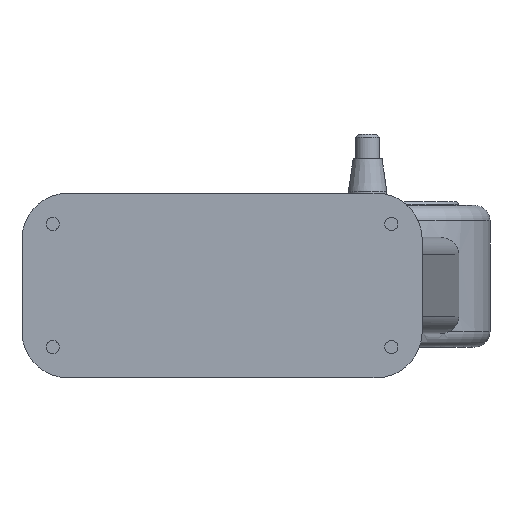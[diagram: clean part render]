
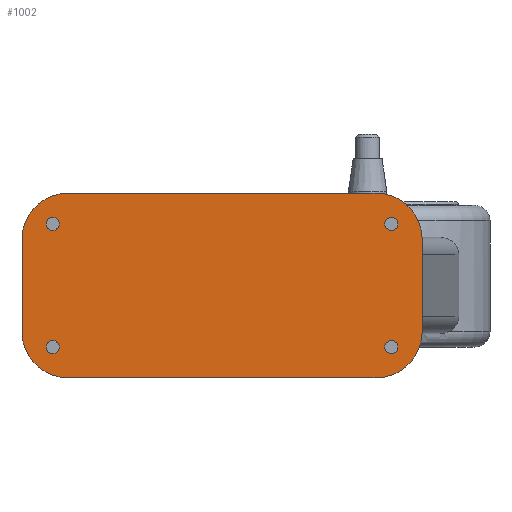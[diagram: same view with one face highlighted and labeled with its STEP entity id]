
A CAD part, front view. The second image highlights one B-rep face of the part: STEP entity #1002.
In plain terms, the highlighted planar face has unit normal (0, -1, 0).
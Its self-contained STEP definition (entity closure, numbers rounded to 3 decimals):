
#3 = DIRECTION ( 'NONE',  ( 1., 0., 0. ) ) ;
#7 = DIRECTION ( 'NONE',  ( 0., -1., 0. ) ) ;
#11 = CARTESIAN_POINT ( 'NONE',  ( 112.419, 0., 40. ) ) ;
#40 = VERTEX_POINT ( 'NONE', #63 ) ;
#63 = CARTESIAN_POINT ( 'NONE',  ( -97.581, 0., -60. ) ) ;
#94 = VERTEX_POINT ( 'NONE', #1247 ) ;
#111 = VERTEX_POINT ( 'NONE', #350 ) ;
#147 = EDGE_LOOP ( 'NONE', ( #1716, #288 ) ) ;
#160 = FACE_BOUND ( 'NONE', #347, .T. ) ;
#186 = EDGE_LOOP ( 'NONE', ( #2266, #969, #1917, #1515, #307, #515, #997, #1110 ) ) ;
#230 = DIRECTION ( 'NONE',  ( 1., 0., 0. ) ) ;
#233 = VERTEX_POINT ( 'NONE', #891 ) ;
#239 = CIRCLE ( 'NONE', #1752, 30. ) ;
#288 = ORIENTED_EDGE ( 'NONE', *, *, #1873, .F. ) ;
#297 = CARTESIAN_POINT ( 'NONE',  ( -127.581, 0., -30. ) ) ;
#307 = ORIENTED_EDGE ( 'NONE', *, *, #462, .F. ) ;
#312 = CARTESIAN_POINT ( 'NONE',  ( -127.581, 0., -60. ) ) ;
#324 = VERTEX_POINT ( 'NONE', #332 ) ;
#329 = CARTESIAN_POINT ( 'NONE',  ( -127.581, 0., 30. ) ) ;
#332 = CARTESIAN_POINT ( 'NONE',  ( 102.419, 0., -60. ) ) ;
#347 = EDGE_LOOP ( 'NONE', ( #1346, #1402 ) ) ;
#350 = CARTESIAN_POINT ( 'NONE',  ( -103.331, 0., -40. ) ) ;
#351 = ORIENTED_EDGE ( 'NONE', *, *, #1094, .F. ) ;
#372 = DIRECTION ( 'NONE',  ( 1., 0., 0. ) ) ;
#379 = DIRECTION ( 'NONE',  ( 0., -1., 0. ) ) ;
#384 = CARTESIAN_POINT ( 'NONE',  ( 112.419, 0., -40. ) ) ;
#391 = DIRECTION ( 'NONE',  ( 1., 0., 0. ) ) ;
#394 = DIRECTION ( 'NONE',  ( 0., -1., 0. ) ) ;
#398 = CARTESIAN_POINT ( 'NONE',  ( -107.581, 0., 40. ) ) ;
#402 = AXIS2_PLACEMENT_3D ( 'NONE', #695, #560, #468 ) ;
#404 = VERTEX_POINT ( 'NONE', #647 ) ;
#414 = VERTEX_POINT ( 'NONE', #1004 ) ;
#418 = CARTESIAN_POINT ( 'NONE',  ( 116.669, 0., -40. ) ) ;
#440 = AXIS2_PLACEMENT_3D ( 'NONE', #916, #905, #898 ) ;
#462 = EDGE_CURVE ( 'NONE', #94, #404, #1072, .T. ) ;
#468 = DIRECTION ( 'NONE',  ( 1., 0., 0. ) ) ;
#494 = VERTEX_POINT ( 'NONE', #1322 ) ;
#515 = ORIENTED_EDGE ( 'NONE', *, *, #1772, .T. ) ;
#516 = AXIS2_PLACEMENT_3D ( 'NONE', #11, #7, #3 ) ;
#555 = CIRCLE ( 'NONE', #1251, 4.25 ) ;
#560 = DIRECTION ( 'NONE',  ( 0., -1., 0. ) ) ;
#570 = LINE ( 'NONE', #1719, #2256 ) ;
#589 = DIRECTION ( 'NONE',  ( -1., 0., 0. ) ) ;
#591 = AXIS2_PLACEMENT_3D ( 'NONE', #627, #658, #589 ) ;
#627 = CARTESIAN_POINT ( 'NONE',  ( 102.419, 0., 30. ) ) ;
#647 = CARTESIAN_POINT ( 'NONE',  ( 102.419, 0., 60. ) ) ;
#650 = VERTEX_POINT ( 'NONE', #1585 ) ;
#658 = DIRECTION ( 'NONE',  ( 0., -1., 0. ) ) ;
#670 = FACE_BOUND ( 'NONE', #1208, .T. ) ;
#695 = CARTESIAN_POINT ( 'NONE',  ( -107.581, 0., -40. ) ) ;
#725 = ORIENTED_EDGE ( 'NONE', *, *, #818, .F. ) ;
#740 = CARTESIAN_POINT ( 'NONE',  ( 132.419, 0., 30. ) ) ;
#770 = VERTEX_POINT ( 'NONE', #950 ) ;
#802 = VERTEX_POINT ( 'NONE', #740 ) ;
#818 = EDGE_CURVE ( 'NONE', #494, #111, #2012, .T. ) ;
#828 = AXIS2_PLACEMENT_3D ( 'NONE', #398, #394, #391 ) ;
#855 = AXIS2_PLACEMENT_3D ( 'NONE', #1986, #1970, #1966 ) ;
#861 = CARTESIAN_POINT ( 'NONE',  ( -127.581, 0., 60. ) ) ;
#891 = CARTESIAN_POINT ( 'NONE',  ( 108.169, 0., -40. ) ) ;
#898 = DIRECTION ( 'NONE',  ( 1., 0., 0. ) ) ;
#901 = DIRECTION ( 'NONE',  ( 1., 0., 0. ) ) ;
#905 = DIRECTION ( 'NONE',  ( 0., -1., 0. ) ) ;
#916 = CARTESIAN_POINT ( 'NONE',  ( -107.581, 0., -40. ) ) ;
#950 = CARTESIAN_POINT ( 'NONE',  ( -103.331, 0., 40. ) ) ;
#957 = CIRCLE ( 'NONE', #1470, 30. ) ;
#969 = ORIENTED_EDGE ( 'NONE', *, *, #1581, .T. ) ;
#980 = VERTEX_POINT ( 'NONE', #2057 ) ;
#997 = ORIENTED_EDGE ( 'NONE', *, *, #1809, .T. ) ;
#1002 = ADVANCED_FACE ( 'NONE', ( #670, #2168, #1668, #160, #2035 ), #1999, .F. ) ;
#1004 = CARTESIAN_POINT ( 'NONE',  ( 108.169, 0., 40. ) ) ;
#1072 = LINE ( 'NONE', #861, #1991 ) ;
#1079 = CIRCLE ( 'NONE', #828, 4.25 ) ;
#1094 = EDGE_CURVE ( 'NONE', #414, #980, #555, .T. ) ;
#1110 = ORIENTED_EDGE ( 'NONE', *, *, #1880, .T. ) ;
#1149 = AXIS2_PLACEMENT_3D ( 'NONE', #2146, #2134, #1984 ) ;
#1181 = EDGE_CURVE ( 'NONE', #802, #2225, #2194, .T. ) ;
#1208 = EDGE_LOOP ( 'NONE', ( #2069, #725 ) ) ;
#1215 = DIRECTION ( 'NONE',  ( 0., 0., -1. ) ) ;
#1247 = CARTESIAN_POINT ( 'NONE',  ( -97.581, 0., 60. ) ) ;
#1251 = AXIS2_PLACEMENT_3D ( 'NONE', #1646, #1643, #1636 ) ;
#1281 = CARTESIAN_POINT ( 'NONE',  ( 132.419, 0., 60. ) ) ;
#1301 = EDGE_CURVE ( 'NONE', #111, #494, #2010, .T. ) ;
#1307 = CIRCLE ( 'NONE', #516, 4.25 ) ;
#1322 = CARTESIAN_POINT ( 'NONE',  ( -111.831, 0., -40. ) ) ;
#1346 = ORIENTED_EDGE ( 'NONE', *, *, #1545, .F. ) ;
#1375 = EDGE_LOOP ( 'NONE', ( #2164, #351 ) ) ;
#1389 = LINE ( 'NONE', #312, #2255 ) ;
#1399 = DIRECTION ( 'NONE',  ( -1., 0., 0. ) ) ;
#1402 = ORIENTED_EDGE ( 'NONE', *, *, #2115, .F. ) ;
#1406 = DIRECTION ( 'NONE',  ( 0., -1., 0. ) ) ;
#1409 = CARTESIAN_POINT ( 'NONE',  ( -97.581, 0., -30. ) ) ;
#1427 = DIRECTION ( 'NONE',  ( 0., -1., 0. ) ) ;
#1435 = DIRECTION ( 'NONE',  ( 1., 0., 0. ) ) ;
#1444 = DIRECTION ( 'NONE',  ( 0., -1., 0. ) ) ;
#1448 = CARTESIAN_POINT ( 'NONE',  ( 112.419, 0., -40. ) ) ;
#1457 = EDGE_CURVE ( 'NONE', #2123, #233, #1820, .T. ) ;
#1470 = AXIS2_PLACEMENT_3D ( 'NONE', #1770, #1767, #1764 ) ;
#1506 = VERTEX_POINT ( 'NONE', #329 ) ;
#1515 = ORIENTED_EDGE ( 'NONE', *, *, #1654, .T. ) ;
#1525 = DIRECTION ( 'NONE',  ( -1., 0., 0. ) ) ;
#1529 = EDGE_CURVE ( 'NONE', #980, #414, #1307, .T. ) ;
#1545 = EDGE_CURVE ( 'NONE', #770, #650, #1733, .T. ) ;
#1570 = CARTESIAN_POINT ( 'NONE',  ( 102.419, 0., -30. ) ) ;
#1581 = EDGE_CURVE ( 'NONE', #324, #2225, #239, .T. ) ;
#1585 = CARTESIAN_POINT ( 'NONE',  ( -111.831, 0., 40. ) ) ;
#1631 = CARTESIAN_POINT ( 'NONE',  ( 132.419, 0., -30. ) ) ;
#1636 = DIRECTION ( 'NONE',  ( 1., 0., 0. ) ) ;
#1643 = DIRECTION ( 'NONE',  ( 0., -1., 0. ) ) ;
#1646 = CARTESIAN_POINT ( 'NONE',  ( 112.419, 0., 40. ) ) ;
#1654 = EDGE_CURVE ( 'NONE', #802, #404, #1998, .T. ) ;
#1668 = FACE_BOUND ( 'NONE', #1375, .T. ) ;
#1706 = CIRCLE ( 'NONE', #2119, 30. ) ;
#1710 = VERTEX_POINT ( 'NONE', #297 ) ;
#1716 = ORIENTED_EDGE ( 'NONE', *, *, #1457, .F. ) ;
#1719 = CARTESIAN_POINT ( 'NONE',  ( -127.581, 0., 60. ) ) ;
#1733 = CIRCLE ( 'NONE', #1149, 4.25 ) ;
#1752 = AXIS2_PLACEMENT_3D ( 'NONE', #1570, #1427, #1525 ) ;
#1764 = DIRECTION ( 'NONE',  ( -1., 0., 0. ) ) ;
#1767 = DIRECTION ( 'NONE',  ( 0., -1., 0. ) ) ;
#1770 = CARTESIAN_POINT ( 'NONE',  ( -97.581, 0., 30. ) ) ;
#1772 = EDGE_CURVE ( 'NONE', #94, #1506, #957, .T. ) ;
#1780 = DIRECTION ( 'NONE',  ( 0., 0., -1. ) ) ;
#1809 = EDGE_CURVE ( 'NONE', #1506, #1710, #570, .T. ) ;
#1820 = CIRCLE ( 'NONE', #2196, 4.25 ) ;
#1873 = EDGE_CURVE ( 'NONE', #233, #2123, #2154, .T. ) ;
#1880 = EDGE_CURVE ( 'NONE', #1710, #40, #1706, .T. ) ;
#1917 = ORIENTED_EDGE ( 'NONE', *, *, #1181, .F. ) ;
#1966 = DIRECTION ( 'NONE',  ( -1., 0., 0. ) ) ;
#1970 = DIRECTION ( 'NONE',  ( 0., 1., 0. ) ) ;
#1984 = DIRECTION ( 'NONE',  ( 1., 0., 0. ) ) ;
#1986 = CARTESIAN_POINT ( 'NONE',  ( -127.581, 0., 60. ) ) ;
#1991 = VECTOR ( 'NONE', #901, 1000. ) ;
#1998 = CIRCLE ( 'NONE', #591, 30. ) ;
#1999 = PLANE ( 'NONE',  #855 ) ;
#2010 = CIRCLE ( 'NONE', #440, 4.25 ) ;
#2012 = CIRCLE ( 'NONE', #402, 4.25 ) ;
#2035 = FACE_OUTER_BOUND ( 'NONE', #186, .T. ) ;
#2057 = CARTESIAN_POINT ( 'NONE',  ( 116.669, 0., 40. ) ) ;
#2069 = ORIENTED_EDGE ( 'NONE', *, *, #1301, .F. ) ;
#2115 = EDGE_CURVE ( 'NONE', #650, #770, #1079, .T. ) ;
#2119 = AXIS2_PLACEMENT_3D ( 'NONE', #1409, #1406, #1399 ) ;
#2123 = VERTEX_POINT ( 'NONE', #418 ) ;
#2134 = DIRECTION ( 'NONE',  ( 0., -1., 0. ) ) ;
#2142 = VECTOR ( 'NONE', #1215, 1000. ) ;
#2146 = CARTESIAN_POINT ( 'NONE',  ( -107.581, 0., 40. ) ) ;
#2154 = CIRCLE ( 'NONE', #2224, 4.25 ) ;
#2159 = EDGE_CURVE ( 'NONE', #40, #324, #1389, .T. ) ;
#2164 = ORIENTED_EDGE ( 'NONE', *, *, #1529, .F. ) ;
#2168 = FACE_BOUND ( 'NONE', #147, .T. ) ;
#2194 = LINE ( 'NONE', #1281, #2142 ) ;
#2196 = AXIS2_PLACEMENT_3D ( 'NONE', #384, #379, #372 ) ;
#2224 = AXIS2_PLACEMENT_3D ( 'NONE', #1448, #1444, #1435 ) ;
#2225 = VERTEX_POINT ( 'NONE', #1631 ) ;
#2255 = VECTOR ( 'NONE', #230, 1000. ) ;
#2256 = VECTOR ( 'NONE', #1780, 1000. ) ;
#2266 = ORIENTED_EDGE ( 'NONE', *, *, #2159, .T. ) ;
